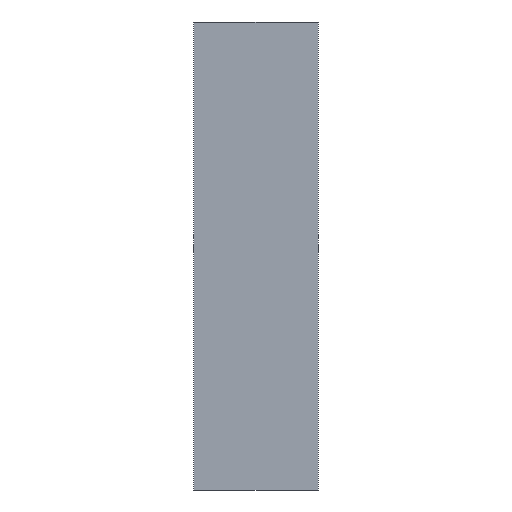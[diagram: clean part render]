
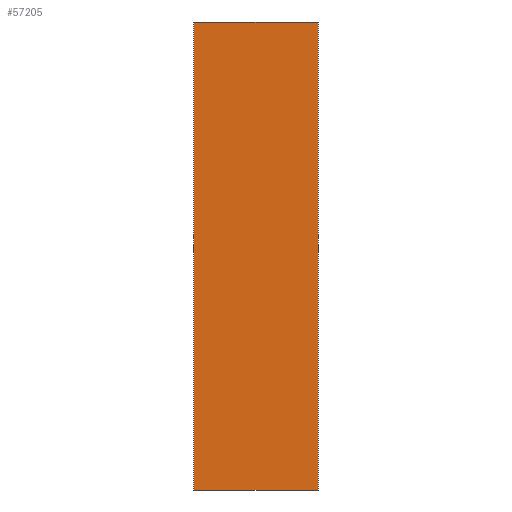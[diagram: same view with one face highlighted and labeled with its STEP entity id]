
A CAD part, front view. The second image highlights one B-rep face of the part: STEP entity #57205.
In plain terms, the highlighted planar face has unit normal (0, -1, 0).
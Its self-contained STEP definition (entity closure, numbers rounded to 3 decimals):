
#1=DIRECTION('',(1.,0.,0.));
#2=VECTOR('',#1,80.);
#3=CARTESIAN_POINT('',(-40.,94.9,69.93));
#4=LINE('',#3,#2);
#5=DIRECTION('',(0.,0.,-1.));
#6=VECTOR('',#5,300.);
#7=CARTESIAN_POINT('',(40.,94.9,69.93));
#8=LINE('',#7,#6);
#9=DIRECTION('',(-1.,0.,0.));
#10=VECTOR('',#9,80.);
#11=CARTESIAN_POINT('',(40.,94.9,-230.07));
#12=LINE('',#11,#10);
#13=DIRECTION('',(0.,0.,1.));
#14=VECTOR('',#13,300.);
#15=CARTESIAN_POINT('',(-40.,94.9,-230.07));
#16=LINE('',#15,#14);
#57084=CARTESIAN_POINT('',(-40.,94.9,69.93));
#57085=CARTESIAN_POINT('',(40.,94.9,69.93));
#57086=VERTEX_POINT('',#57084);
#57087=VERTEX_POINT('',#57085);
#57088=CARTESIAN_POINT('',(40.,94.9,-230.07));
#57089=VERTEX_POINT('',#57088);
#57090=CARTESIAN_POINT('',(-40.,94.9,-230.07));
#57091=VERTEX_POINT('',#57090);
#57190=CARTESIAN_POINT('',(0.,94.9,-0.07));
#57191=DIRECTION('',(0.,-1.,0.));
#57192=DIRECTION('',(0.,0.,-1.));
#57193=AXIS2_PLACEMENT_3D('',#57190,#57191,#57192);
#57194=PLANE('',#57193);
#57196=ORIENTED_EDGE('',*,*,#57195,.T.);
#57198=ORIENTED_EDGE('',*,*,#57197,.T.);
#57200=ORIENTED_EDGE('',*,*,#57199,.T.);
#57202=ORIENTED_EDGE('',*,*,#57201,.T.);
#57203=EDGE_LOOP('',(#57196,#57198,#57200,#57202));
#57204=FACE_OUTER_BOUND('',#57203,.F.);
#57205=ADVANCED_FACE('',(#57204),#57194,.T.);
#57195=EDGE_CURVE('',#57086,#57087,#4,.T.);
#57197=EDGE_CURVE('',#57087,#57089,#8,.T.);
#57199=EDGE_CURVE('',#57089,#57091,#12,.T.);
#57201=EDGE_CURVE('',#57091,#57086,#16,.T.);
